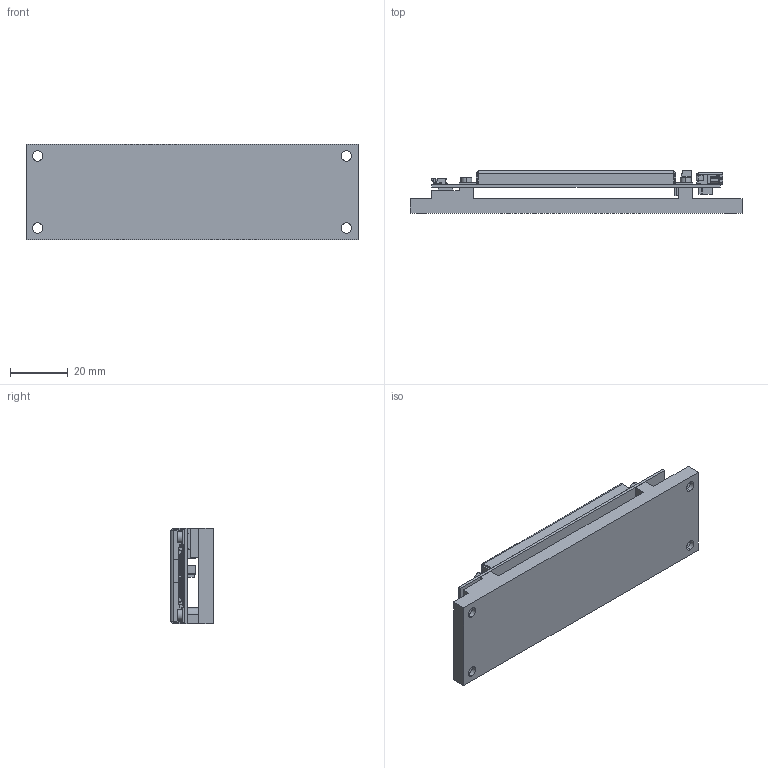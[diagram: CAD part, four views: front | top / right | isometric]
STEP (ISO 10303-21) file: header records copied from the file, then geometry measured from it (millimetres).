
FILE_DESCRIPTION (( 'STEP AP203' ), '1' );
FILE_NAME ('Obis Core Board Assy.STEP', '2016-01-06T15:51:21', ( 'Authorized User' ), ( 'Coherent' ), 'SwSTEP 2.0', 'SolidWorks 2014', '' );
FILE_SCHEMA (( 'CONFIG_CONTROL_DESIGN' ));
Length unit declared in the file: millimetre
Products named in the file (1): Obis Core Board Assy
Bounding box: 115 x 14.72 x 33 mm (x, y, z)
Surface area: 25765.1 mm2 (no closed solid volume)
Topology: 0 solids, 22 shells, 2345 faces, 6958 edges, 4470 vertices
Faces by surface type: plane 1953, cylinder 350, bspline 26, cone 16
Entity records: 78740 total; most frequent: CARTESIAN_POINT 15794, ORIENTED_EDGE 13874, DIRECTION 11967, EDGE_CURVE 6946, VECTOR 6117, LINE 6117, VERTEX_POINT 4470, AXIS2_PLACEMENT_3D 2925
